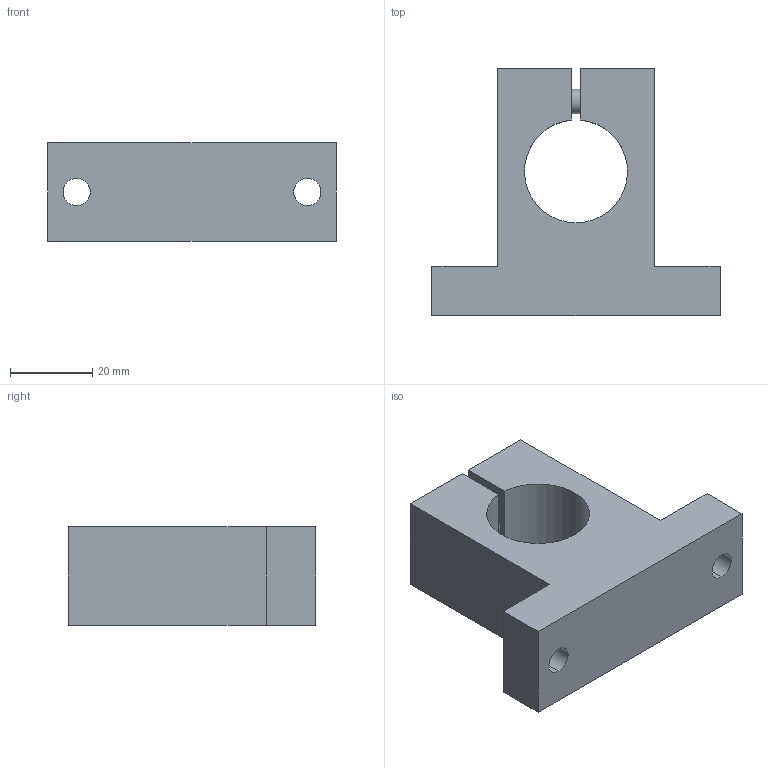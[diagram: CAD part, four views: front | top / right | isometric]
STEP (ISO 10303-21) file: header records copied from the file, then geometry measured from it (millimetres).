
FILE_DESCRIPTION (( 'STEP AP214' ), '1' );
FILE_NAME ('2.7112 Akselin päätykiinnike SK25.STEP', '2024-06-12T10:23:52', ( '' ), ( '' ), 'SwSTEP 2.0', 'SolidWorks 2024', '' );
FILE_SCHEMA (( 'AUTOMOTIVE_DESIGN' ));
Length unit declared in the file: millimetre
Products named in the file (1): 2.7112 Akselin päätykiinnike SK25
Bounding box: 70 x 60 x 24 mm (x, y, z)
Volume: 50692.4 mm3; surface area: 13551 mm2
Topology: 1 solids, 1 shells, 36 faces, 91 edges, 60 vertices
Faces by surface type: plane 22, cylinder 12, cone 2
Entity records: 1120 total; most frequent: DIRECTION 191, CARTESIAN_POINT 188, ORIENTED_EDGE 182, EDGE_CURVE 91, LINE 65, VECTOR 65, AXIS2_PLACEMENT_3D 63, VERTEX_POINT 60
